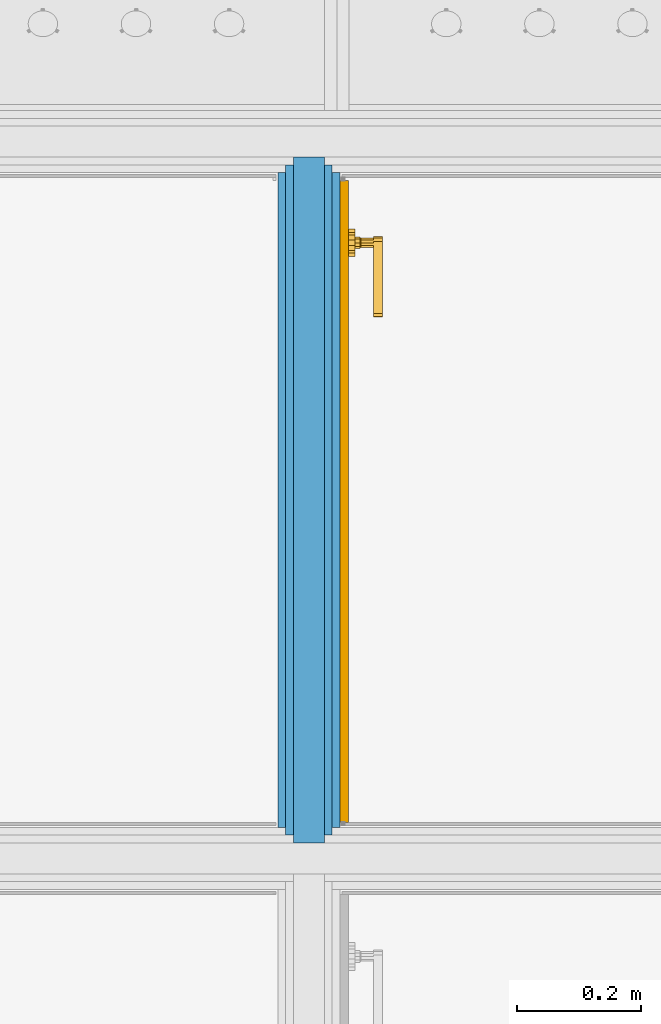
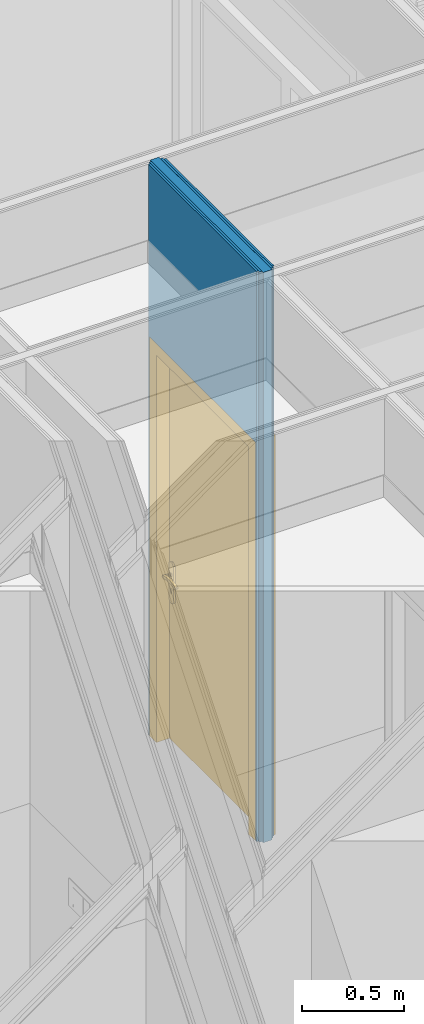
# One storey, part 16 of 788: 5 building element parts, 1 door, 1 opening, 1 element without a shape of its own.
"""IFC2X3 building model written with IfcOpenShell, lengths in millimetres."""

from ifc_helpers import new_model, entity, si_unit, converted_unit, derived_unit, money_unit, direction, frame, origin_with_axes, place, context, subcontext, project, spatial, faceted_brep, source, transform, mapped, material, type_object, type_shapes, element, fill, aggregate, save


model = new_model("IFC2X3")

# Units and contexts
model_context = context("Model", 3, precision=0.01, world=origin_with_axes(), true_north=direction((0.0, 1.0)))
plan_context = context("Plan", 3, precision=0.01, world=origin_with_axes(), true_north=direction((0.0, 1.0)))
body_context = subcontext(model_context, "Body", "Model", "MODEL_VIEW")
ifc_project = project(units=[si_unit("LENGTHUNIT", "METRE", prefix="MILLI"), si_unit("AREAUNIT", "SQUARE_METRE"), si_unit("VOLUMEUNIT", "CUBIC_METRE"), converted_unit("PLANEANGLEUNIT", "DEGREE", entity("IfcPlaneAngleMeasure", 0.0174532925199), si_unit("PLANEANGLEUNIT", "RADIAN"), dimensions=[0, 0, 0, 0, 0, 0, 0]), money_unit("EUR"), converted_unit("TIMEUNIT", "Year", entity("IfcTimeMeasure", 31556926.0), si_unit("TIMEUNIT", "SECOND"), dimensions=[0, 0, 1, 0, 0, 0, 0]), si_unit("MASSUNIT", "GRAM", prefix="KILO"), si_unit("THERMODYNAMICTEMPERATUREUNIT", "DEGREE_CELSIUS"), si_unit("LUMINOUSINTENSITYUNIT", "LUMEN"), si_unit("ENERGYUNIT", "JOULE", prefix="MEGA"), derived_unit("THERMALCONDUCTANCEUNIT", [(si_unit("POWERUNIT", "WATT"), 1), (si_unit("LENGTHUNIT", "METRE"), -1), (si_unit("THERMODYNAMICTEMPERATUREUNIT", "KELVIN"), -1)]), derived_unit("SPECIFICHEATCAPACITYUNIT", [(si_unit("ENERGYUNIT", "JOULE"), 1), (si_unit("MASSUNIT", "GRAM", prefix="KILO"), -1), (si_unit("THERMODYNAMICTEMPERATUREUNIT", "KELVIN"), -1)]), derived_unit("MASSDENSITYUNIT", [(si_unit("MASSUNIT", "GRAM", prefix="KILO"), 1), (si_unit("VOLUMEUNIT", "CUBIC_METRE"), -1)])], contexts=[model_context, plan_context])

# Site, building, storey
site_placement = place(None, origin_with_axes())
site = spatial("IfcSite", under=ifc_project, at=site_placement, Name="Site", CompositionType="ELEMENT")
building_placement = place(site_placement, origin_with_axes())
building = spatial("IfcBuilding", under=site, at=building_placement, Name="Naam gebouw", CompositionType="ELEMENT")
storey_placement = place(building_placement, origin_with_axes())
storey = spatial("IfcBuildingStorey", under=building, at=storey_placement, Name="Begane grond", CompositionType="ELEMENT", Elevation=0.0)

# Door
door_style = type_object("IfcDoorStyle", Name="D1 25", ConstructionType="NOTDEFINED", OperationType="SINGLE_SWING_RIGHT", ParameterTakesPrecedence=False, Sizeable=False)
shared_shape = source(origin_with_axes(), body_context, "Body", "Brep", [
    faceted_brep([(-450.0, -40.0, 0.0), (-450.0, -40.0, 2310.0), (-450.0, -114.0, 2310.0), (-450.0, -114.0, 0.0), (-467.0, -40.0, 2310.0), (-467.0, -40.0, 0.0), (-467.0, 0.0, 2310.0), (-517.0, 0.0, 2310.0), (-517.0, -114.0, 2310.0), (-517.0, -114.0, 0.0), (-517.0, 0.0, 0.0), (-467.0, 0.0, 0.0)], [[[0, 1, 2, 3]], [[4, 1, 0, 5]], [[4, 6, 7, 8, 2, 1]], [[3, 2, 8, 9]], [[5, 0, 3, 9, 10, 11]], [[6, 4, 5, 11]], [[6, 11, 10, 7]], [[10, 9, 8, 7]]]),
    faceted_brep([(467.0, -40.0, 2310.0), (450.0, -40.0, 2310.0), (450.0, -114.0, 2310.0), (517.0, -114.0, 2310.0), (517.0, 0.0, 2310.0), (467.0, 0.0, 2310.0), (467.0, -40.0, 0.0), (450.0, -40.0, 0.0), (450.0, -114.0, 0.0), (517.0, -114.0, 0.0), (517.0, 0.0, 0.0), (467.0, 0.0, 0.0)], [[[0, 1, 2, 3, 4, 5]], [[1, 0, 6, 7]], [[1, 7, 8, 2]], [[3, 2, 8, 9]], [[4, 3, 9, 10]], [[11, 5, 4, 10]], [[0, 5, 11, 6]], [[6, 11, 10, 9, 8, 7]]]),
    faceted_brep([(-467.0, 0.0, 2327.0), (-467.0, 0.0, 2310.0), (-517.0, 0.0, 2310.0), (-517.0, 0.0, 2377.0), (517.0, 0.0, 2377.0), (517.0, 0.0, 2310.0), (467.0, 0.0, 2310.0), (467.0, 0.0, 2327.0), (-467.0, -40.0, 2327.0), (-467.0, -40.0, 2310.0), (-450.0, -40.0, 2310.0), (-450.0, -114.0, 2310.0), (-517.0, -114.0, 2310.0), (-517.0, -114.0, 2377.0), (517.0, -114.0, 2377.0), (517.0, -114.0, 2310.0), (467.0, -40.0, 2310.0), (450.0, -114.0, 2310.0), (450.0, -40.0, 2310.0), (467.0, -40.0, 2327.0)], [[[0, 1, 2, 3, 4, 5, 6, 7]], [[1, 0, 8, 9]], [[9, 10, 11, 12, 2, 1]], [[2, 12, 13, 3]], [[3, 13, 14, 4]], [[4, 14, 15, 5]], [[16, 6, 5, 15, 17, 18]], [[7, 6, 16, 19]], [[0, 7, 19, 8]], [[16, 18, 10, 9, 8, 19]], [[10, 18, 17, 11]], [[17, 15, 14, 13, 12, 11]]]),
    faceted_brep([(-421.702282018, -80.0, 1006.47213595), (-417.0, -80.0, 1008.0), (-417.0, -60.0, 1008.0), (-421.702282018, -60.0, 1006.47213595), (-424.60845213, -80.0, 1002.47213595), (-424.60845213, -80.0, 997.527864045), (-421.702282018, -80.0, 993.527864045), (-417.0, -80.0, 992.0), (-412.297717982, -80.0, 993.527864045), (-409.39154787, -80.0, 997.527864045), (-409.39154787, -80.0, 1002.47213595), (-412.297717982, -80.0, 1006.47213595), (-412.297717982, -60.0, 1006.47213595), (-417.0, -58.0, 1010.0), (-422.877852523, -58.0, 1008.09016994), (-424.60845213, -60.0, 1002.47213595), (-424.60845213, -60.0, 997.527864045), (-421.702282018, -60.0, 993.527864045), (-417.0, -60.0, 992.0), (-412.297717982, -60.0, 993.527864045), (-409.39154787, -60.0, 997.527864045), (-409.39154787, -60.0, 1002.47213595), (-411.122147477, -58.0, 1008.09016994), (-417.0, -50.0, 1010.0), (-422.877852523, -50.0, 1008.09016994), (-426.510565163, -58.0, 1003.09016994), (-426.510565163, -58.0, 996.909830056), (-422.877852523, -58.0, 991.909830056), (-417.0, -58.0, 990.0), (-411.122147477, -58.0, 991.909830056), (-407.489434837, -58.0, 996.909830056), (-407.489434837, -58.0, 1003.09016994), (-411.122147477, -50.0, 1008.09016994), (-407.489434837, -50.0, 1003.09016994), (-407.489434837, -50.0, 996.909830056), (-411.122147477, -50.0, 991.909830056), (-417.0, -50.0, 990.0), (-422.877852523, -50.0, 991.909830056), (-426.510565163, -50.0, 996.909830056), (-426.510565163, -50.0, 1003.09016994)], [[[0, 1, 2, 3]], [[1, 0, 4, 5, 6, 7, 8, 9, 10, 11]], [[1, 11, 12, 2]], [[3, 2, 13, 14]], [[4, 0, 3, 15]], [[5, 4, 15, 16]], [[6, 5, 16, 17]], [[7, 6, 17, 18]], [[8, 7, 18, 19]], [[9, 8, 19, 20]], [[10, 9, 20, 21]], [[11, 10, 21, 12]], [[2, 12, 22, 13]], [[14, 13, 23, 24]], [[15, 3, 14, 25]], [[16, 15, 25, 26]], [[17, 16, 26, 27]], [[18, 17, 27, 28]], [[19, 18, 28, 29]], [[20, 19, 29, 30]], [[21, 20, 30, 31]], [[12, 21, 31, 22]], [[13, 22, 32, 23]], [[23, 32, 33, 34, 35, 36, 37, 38, 39, 24]], [[25, 14, 24, 39]], [[26, 25, 39, 38]], [[27, 26, 38, 37]], [[28, 27, 37, 36]], [[29, 28, 36, 35]], [[30, 29, 35, 34]], [[31, 30, 34, 33]], [[22, 31, 33, 32]]]),
    faceted_brep([(-404.811616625, -50.0, 1067.59695641), (-412.556444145, -50.0, 1071.95567195), (-421.443555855, -50.0, 1071.95567195), (-429.188383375, -50.0, 1067.59695641), (-433.8, -50.0, 1060.0), (-439.5, -50.0, 1060.0), (-439.5, -50.0, 840.0), (-433.8, -50.0, 840.0), (-429.188383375, -50.0, 832.403043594), (-421.443555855, -50.0, 828.044328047), (-412.556444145, -50.0, 828.044328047), (-404.811616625, -50.0, 832.403043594), (-400.2, -50.0, 840.0), (-394.5, -50.0, 840.0), (-394.5, -50.0, 1060.0), (-400.2, -50.0, 1060.0), (-417.0, -50.0, 917.425445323), (-411.624817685, -50.0, 915.143815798), (-409.532169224, -50.0, 909.692280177), (-412.0, -50.0, 904.4), (-412.0, -50.0, 887.5), (-413.464466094, -50.0, 883.964466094), (-417.0, -50.0, 882.5), (-420.535533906, -50.0, 883.964466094), (-422.0, -50.0, 887.5), (-422.0, -50.0, 904.4), (-424.467830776, -50.0, 909.692280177), (-422.375182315, -50.0, 915.143815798), (-404.811616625, -40.0, 1067.59695641), (-412.556444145, -40.0, 1071.95567195), (-421.443555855, -40.0, 1071.95567195), (-429.188383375, -40.0, 1067.59695641), (-433.8, -40.0, 1060.0), (-439.5, -40.0, 1060.0), (-439.5, -40.0, 840.0), (-433.8, -40.0, 840.0), (-429.188383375, -40.0, 832.403043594), (-421.443555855, -40.0, 828.044328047), (-412.556444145, -40.0, 828.044328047), (-404.811616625, -40.0, 832.403043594), (-400.2, -40.0, 840.0), (-394.5, -40.0, 840.0), (-394.5, -40.0, 1060.0), (-400.2, -40.0, 1060.0), (-417.0, -40.0, 917.425445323), (-411.624817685, -40.0, 915.143815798), (-409.532169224, -40.0, 909.692280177), (-412.0, -40.0, 904.4), (-412.0, -40.0, 887.5), (-413.464466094, -40.0, 883.964466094), (-417.0, -40.0, 882.5), (-420.535533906, -40.0, 883.964466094), (-422.0, -40.0, 887.5), (-422.0, -40.0, 904.4), (-424.467830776, -40.0, 909.692280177), (-422.375182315, -40.0, 915.143815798)], [[[0, 1, 2, 3, 4, 5, 6, 7, 8, 9, 10, 11, 12, 13, 14, 15], [16, 17, 18, 19, 20, 21, 22, 23, 24, 25, 26, 27]], [[1, 0, 28, 29]], [[2, 1, 29, 30]], [[3, 2, 30, 31]], [[4, 3, 31, 32]], [[5, 4, 32, 33]], [[6, 5, 33, 34]], [[7, 6, 34, 35]], [[8, 7, 35, 36]], [[9, 8, 36, 37]], [[10, 9, 37, 38]], [[11, 10, 38, 39]], [[12, 11, 39, 40]], [[13, 12, 40, 41]], [[14, 13, 41, 42]], [[15, 14, 42, 43]], [[0, 15, 43, 28]], [[17, 16, 44, 45]], [[18, 17, 45, 46]], [[19, 18, 46, 47]], [[19, 47, 48, 20]], [[20, 48, 49, 21]], [[21, 49, 50, 22]], [[22, 50, 51, 23]], [[23, 51, 52, 24]], [[53, 25, 24, 52]], [[26, 25, 53, 54]], [[27, 26, 54, 55]], [[16, 27, 55, 44]], [[40, 39, 38, 37, 36, 35, 34, 33, 32, 31, 30, 29, 28, 43, 42, 41], [54, 53, 52, 51, 50, 49, 48, 47, 46, 45, 44, 55]]]),
    faceted_brep([(-302.747, -80.0, 1007.158), (-302.747, -95.0, 1007.158), (-302.745508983, -95.0, 1007.19388416), (-302.745508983, -80.0, 1007.19388416), (-329.774630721, -80.0, 1014.32652034), (-329.774630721, -95.0, 1014.32652034), (-357.602743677, -95.0, 1017.06086405), (-385.508740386, -95.0, 1015.29002982), (-412.768, -95.0, 1009.06), (-419.170575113, -95.0, 1009.76125134), (-424.672633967, -95.0, 1006.41280843), (-426.991512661, -95.0, 1000.40385485), (-425.165167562, -95.0, 994.227352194), (-419.951302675, -95.0, 990.445773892), (-413.513017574, -95.0, 990.628000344), (-408.521392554, -95.0, 994.698430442), (-408.542, -95.0, 994.666), (-383.253286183, -95.0, 1000.19878945), (-357.410818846, -95.0, 1001.71460194), (-331.648684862, -95.0, 999.176244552), (-306.599, -95.0, 992.646), (-301.055815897, -95.0, 993.568490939), (-297.69427449, -95.0, 998.071591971), (-298.385844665, -95.0, 1003.64829442), (-298.385844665, -80.0, 1003.64829442), (-297.69427449, -80.0, 998.071591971), (-301.055815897, -80.0, 993.568490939), (-306.599, -80.0, 992.646), (-331.648684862, -80.0, 999.176244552), (-357.410818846, -80.0, 1001.71460194), (-383.253286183, -80.0, 1000.19878945), (-408.542, -80.0, 994.666), (-408.521392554, -80.0, 994.698430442), (-413.513017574, -80.0, 990.628000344), (-419.951302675, -80.0, 990.445773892), (-425.165167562, -80.0, 994.227352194), (-426.991512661, -80.0, 1000.40385485), (-424.672633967, -80.0, 1006.41280843), (-419.170575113, -80.0, 1009.76125134), (-412.768, -80.0, 1009.06), (-385.508740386, -80.0, 1015.29002982), (-357.602743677, -80.0, 1017.06086405)], [[[0, 1, 2, 3]], [[4, 5, 1, 0]], [[1, 5, 6, 7, 8, 9, 10, 11, 12, 13, 14, 15, 16, 17, 18, 19, 20, 21, 22, 23, 2]], [[3, 2, 23, 24]], [[0, 3, 24, 25, 26, 27, 28, 29, 30, 31, 32, 33, 34, 35, 36, 37, 38, 39, 40, 41, 4]], [[41, 6, 5, 4]], [[40, 7, 6, 41]], [[39, 8, 7, 40]], [[38, 9, 8, 39]], [[37, 10, 9, 38]], [[36, 11, 10, 37]], [[35, 12, 11, 36]], [[34, 13, 12, 35]], [[33, 14, 13, 34]], [[32, 15, 14, 33]], [[31, 16, 15, 32]], [[30, 17, 16, 31]], [[29, 18, 17, 30]], [[28, 19, 18, 29]], [[27, 20, 19, 28]], [[26, 21, 20, 27]], [[25, 22, 21, 26]], [[24, 23, 22, 25]]]),
    faceted_brep([(-421.702282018, 40.0, 1006.47213595), (-421.702282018, 20.0, 1006.47213595), (-417.0, 20.0, 1008.0), (-417.0, 40.0, 1008.0), (-424.60845213, 40.0, 1002.47213595), (-424.60845213, 20.0, 1002.47213595), (-422.877852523, 18.0, 1008.09016994), (-417.0, 18.0, 1010.0), (-412.297717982, 20.0, 1006.47213595), (-412.297717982, 40.0, 1006.47213595), (-409.39154787, 40.0, 1002.47213595), (-409.39154787, 40.0, 997.527864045), (-412.297717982, 40.0, 993.527864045), (-417.0, 40.0, 992.0), (-421.702282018, 40.0, 993.527864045), (-424.60845213, 40.0, 997.527864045), (-424.60845213, 20.0, 997.527864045), (-426.510565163, 18.0, 1003.09016994), (-422.877852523, 10.0, 1008.09016994), (-417.0, 10.0, 1010.0), (-411.122147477, 18.0, 1008.09016994), (-409.39154787, 20.0, 1002.47213595), (-409.39154787, 20.0, 997.527864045), (-412.297717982, 20.0, 993.527864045), (-417.0, 20.0, 992.0), (-421.702282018, 20.0, 993.527864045), (-426.510565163, 18.0, 996.909830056), (-426.510565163, 10.0, 1003.09016994), (-426.510565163, 10.0, 996.909830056), (-422.877852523, 10.0, 991.909830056), (-417.0, 10.0, 990.0), (-411.122147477, 10.0, 991.909830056), (-407.489434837, 10.0, 996.909830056), (-407.489434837, 10.0, 1003.09016994), (-411.122147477, 10.0, 1008.09016994), (-407.489434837, 18.0, 1003.09016994), (-407.489434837, 18.0, 996.909830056), (-411.122147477, 18.0, 991.909830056), (-417.0, 18.0, 990.0), (-422.877852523, 18.0, 991.909830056)], [[[0, 1, 2, 3]], [[4, 5, 1, 0]], [[1, 6, 7, 2]], [[3, 2, 8, 9]], [[3, 9, 10, 11, 12, 13, 14, 15, 4, 0]], [[15, 16, 5, 4]], [[5, 17, 6, 1]], [[6, 18, 19, 7]], [[2, 7, 20, 8]], [[9, 8, 21, 10]], [[10, 21, 22, 11]], [[11, 22, 23, 12]], [[12, 23, 24, 13]], [[13, 24, 25, 14]], [[14, 25, 16, 15]], [[16, 26, 17, 5]], [[17, 27, 18, 6]], [[19, 18, 27, 28, 29, 30, 31, 32, 33, 34]], [[7, 19, 34, 20]], [[8, 20, 35, 21]], [[21, 35, 36, 22]], [[22, 36, 37, 23]], [[23, 37, 38, 24]], [[24, 38, 39, 25]], [[25, 39, 26, 16]], [[26, 28, 27, 17]], [[39, 29, 28, 26]], [[38, 30, 29, 39]], [[37, 31, 30, 38]], [[36, 32, 31, 37]], [[35, 33, 32, 36]], [[20, 34, 33, 35]]]),
    faceted_brep([(-404.811616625, 0.0, 1067.59695641), (-412.556444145, 0.0, 1071.95567195), (-421.443555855, 0.0, 1071.95567195), (-429.188383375, 0.0, 1067.59695641), (-433.8, 0.0, 1060.0), (-439.5, 0.0, 1060.0), (-439.5, 0.0, 840.0), (-433.8, 0.0, 840.0), (-429.188383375, 0.0, 832.403043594), (-421.443555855, 0.0, 828.044328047), (-412.556444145, 0.0, 828.044328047), (-404.811616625, 0.0, 832.403043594), (-400.2, 0.0, 840.0), (-394.5, 0.0, 840.0), (-394.5, 0.0, 1060.0), (-400.2, 0.0, 1060.0), (-417.0, 0.0, 917.425445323), (-411.624817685, 0.0, 915.143815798), (-409.532169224, 0.0, 909.692280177), (-412.0, 0.0, 904.4), (-412.0, 0.0, 887.5), (-413.464466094, 0.0, 883.964466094), (-417.0, 0.0, 882.5), (-420.535533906, 0.0, 883.964466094), (-422.0, 0.0, 887.5), (-422.0, 0.0, 904.4), (-424.467830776, 0.0, 909.692280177), (-422.375182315, 0.0, 915.143815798), (-412.556444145, 10.0, 1071.95567195), (-404.811616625, 10.0, 1067.59695641), (-421.443555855, 10.0, 1071.95567195), (-429.188383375, 10.0, 1067.59695641), (-433.8, 10.0, 1060.0), (-439.5, 10.0, 1060.0), (-439.5, 10.0, 840.0), (-433.8, 10.0, 840.0), (-429.188383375, 10.0, 832.403043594), (-421.443555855, 10.0, 828.044328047), (-412.556444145, 10.0, 828.044328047), (-404.811616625, 10.0, 832.403043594), (-400.2, 10.0, 840.0), (-394.5, 10.0, 840.0), (-394.5, 10.0, 1060.0), (-400.2, 10.0, 1060.0), (-417.0, 10.0, 917.425445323), (-411.624817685, 10.0, 915.143815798), (-409.532169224, 10.0, 909.692280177), (-412.0, 10.0, 904.4), (-412.0, 10.0, 887.5), (-413.464466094, 10.0, 883.964466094), (-417.0, 10.0, 882.5), (-420.535533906, 10.0, 883.964466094), (-422.0, 10.0, 887.5), (-422.0, 10.0, 904.4), (-424.467830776, 10.0, 909.692280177), (-422.375182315, 10.0, 915.143815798)], [[[0, 1, 2, 3, 4, 5, 6, 7, 8, 9, 10, 11, 12, 13, 14, 15], [16, 17, 18, 19, 20, 21, 22, 23, 24, 25, 26, 27]], [[28, 1, 0, 29]], [[30, 2, 1, 28]], [[31, 3, 2, 30]], [[32, 4, 3, 31]], [[33, 5, 4, 32]], [[34, 6, 5, 33]], [[35, 7, 6, 34]], [[36, 8, 7, 35]], [[37, 9, 8, 36]], [[38, 10, 9, 37]], [[39, 11, 10, 38]], [[40, 12, 11, 39]], [[41, 13, 12, 40]], [[42, 14, 13, 41]], [[43, 15, 14, 42]], [[29, 0, 15, 43]], [[17, 16, 44, 45]], [[18, 17, 45, 46]], [[19, 18, 46, 47]], [[19, 47, 48, 20]], [[20, 48, 49, 21]], [[21, 49, 50, 22]], [[22, 50, 51, 23]], [[23, 51, 52, 24]], [[53, 25, 24, 52]], [[26, 25, 53, 54]], [[27, 26, 54, 55]], [[16, 27, 55, 44]], [[40, 39, 38, 37, 36, 35, 34, 33, 32, 31, 30, 28, 29, 43, 42, 41], [54, 53, 52, 51, 50, 49, 48, 47, 46, 45, 44, 55]]]),
    faceted_brep([(-302.747, 40.0, 1007.158), (-302.745508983, 40.0, 1007.19388416), (-302.745508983, 55.0, 1007.19388416), (-302.747, 55.0, 1007.158), (-329.774630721, 40.0, 1014.32652034), (-357.602743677, 40.0, 1017.06086405), (-385.508740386, 40.0, 1015.29002982), (-412.768, 40.0, 1009.06), (-419.170575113, 40.0, 1009.76125134), (-424.672633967, 40.0, 1006.41280843), (-426.991512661, 40.0, 1000.40385485), (-425.165167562, 40.0, 994.227352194), (-419.951302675, 40.0, 990.445773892), (-413.513017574, 40.0, 990.628000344), (-408.521392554, 40.0, 994.698430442), (-408.542, 40.0, 994.666), (-383.253286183, 40.0, 1000.19878945), (-357.410818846, 40.0, 1001.71460194), (-331.648684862, 40.0, 999.176244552), (-306.599, 40.0, 992.646), (-301.055815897, 40.0, 993.568490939), (-297.69427449, 40.0, 998.071591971), (-298.385844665, 40.0, 1003.64829442), (-298.385844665, 55.0, 1003.64829442), (-297.69427449, 55.0, 998.071591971), (-301.055815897, 55.0, 993.568490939), (-306.599, 55.0, 992.646), (-331.648684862, 55.0, 999.176244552), (-357.410818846, 55.0, 1001.71460194), (-383.253286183, 55.0, 1000.19878945), (-408.542, 55.0, 994.666), (-408.521392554, 55.0, 994.698430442), (-413.513017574, 55.0, 990.628000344), (-419.951302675, 55.0, 990.445773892), (-425.165167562, 55.0, 994.227352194), (-426.991512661, 55.0, 1000.40385485), (-424.672633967, 55.0, 1006.41280843), (-419.170575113, 55.0, 1009.76125134), (-412.768, 55.0, 1009.06), (-385.508740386, 55.0, 1015.29002982), (-357.602743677, 55.0, 1017.06086405), (-329.774630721, 55.0, 1014.32652034)], [[[0, 1, 2, 3]], [[0, 4, 5, 6, 7, 8, 9, 10, 11, 12, 13, 14, 15, 16, 17, 18, 19, 20, 21, 22, 1]], [[1, 22, 23, 2]], [[3, 2, 23, 24, 25, 26, 27, 28, 29, 30, 31, 32, 33, 34, 35, 36, 37, 38, 39, 40, 41]], [[4, 0, 3, 41]], [[5, 4, 41, 40]], [[6, 5, 40, 39]], [[7, 6, 39, 38]], [[8, 7, 38, 37]], [[9, 8, 37, 36]], [[10, 9, 36, 35]], [[11, 10, 35, 34]], [[12, 11, 34, 33]], [[13, 12, 33, 32]], [[14, 13, 32, 31]], [[15, 14, 31, 30]], [[16, 15, 30, 29]], [[17, 16, 29, 28]], [[18, 17, 28, 27]], [[19, 18, 27, 26]], [[20, 19, 26, 25]], [[21, 20, 25, 24]], [[22, 21, 24, 23]]]),
    faceted_brep([(467.0, 0.0, 0.0), (467.0, -40.0, 0.0), (-467.0, -40.0, 0.0), (-467.0, 0.0, 0.0), (467.0, 0.0, 2327.0), (467.0, -40.0, 2327.0), (-467.0, -40.0, 2327.0), (-467.0, 0.0, 2327.0)], [[[0, 1, 2, 3]], [[4, 5, 1, 0]], [[1, 5, 6, 2]], [[3, 2, 6, 7]], [[0, 3, 7, 4]], [[7, 6, 5, 4]]]),
])
type_shapes(door_style, [shared_shape])
wall_placement = place(storey_placement, frame((25965.9940854, 24004.989991, 0.0), z_axis=(0.0, 0.0, 1.0), x_axis=(0.0, 1.0, 0.0)))
opening_placement = place(wall_placement, frame((625.0, 0.0, 0.0), z_axis=(0.0, 0.0, 1.0), x_axis=(1.0, 0.0, 0.0)))
door_placement = place(opening_placement, frame((517.0, 0.0, 0.0), z_axis=(0.0, 0.0, 1.0), x_axis=(-1.0, 0.0, 0.0)))
door = element("IfcDoor", 1, at=door_placement, inside=storey, type_object=door_style, Name="b1.01", ObjectType="DOOR", OverallHeight=2377.0, OverallWidth=1034.0, context=body_context, shape_type="MappedRepresentation", body=[
    mapped(shared_shape, transform((517.0, 114.0, 0.0))),
])

# Wall, opening
wall_type = type_object("IfcWallType", Name="22 Metalstud 100mm 100", PredefinedType="ELEMENTEDWALL")
wall = element("IfcWall", 2, at=wall_placement, inside=storey, type_object=wall_type, Name="Binnenwand")
opening = element("IfcOpeningElement", 3, at=opening_placement, cuts=wall, Name="b1.01", context=body_context, shape_type="Brep", body=[
    faceted_brep([(-517.0, -100.0, 0.0), (-517.0, -100.0, 2377.0), (-517.0, 200.0, 2377.0), (-517.0, 200.0, 0.0), (517.0, -100.0, 0.0), (517.0, -100.0, 2377.0), (517.0, 200.0, 2377.0), (517.0, 200.0, 0.0)], [[[0, 1, 2, 3]], [[0, 4, 5, 1]], [[1, 5, 6, 2]], [[3, 2, 6, 7]], [[4, 0, 3, 7]], [[5, 4, 7, 6]]]),
])

fill(opening, door)

# Building element part
ifc_material_1 = material(Name="Gipsplaat")
building_element_part_1_placement = place(wall_placement, origin_with_axes())
building_element_part_1 = element("IfcBuildingElementPart", 4, at=building_element_part_1_placement, material=ifc_material_1, Name="Gipsplaat", context=body_context, shape_type="Brep", body=[
    faceted_brep([(108.0, -12.5, 0.0), (108.0, -12.5, 2377.0), (1142.0, -12.5, 2377.0), (1142.0, -12.5, 0.0), (1155.00133116, -12.5, 0.0), (1155.00133116, -12.5, 3400.0), (100.0, -12.5, 3400.0), (100.0, -12.5, 0.0), (108.0, 0.0, 0.0), (108.0, 0.0, 2377.0), (1142.0, 0.0, 2377.0), (1142.0, 0.0, 0.0), (1155.00133116, 0.0, 0.0), (1155.00133116, 0.0, 3400.0), (100.0, 0.0, 3400.0), (100.0, 0.0, 0.0)], [[[0, 1, 2, 3, 4, 5, 6, 7]], [[1, 0, 8, 9]], [[2, 1, 9, 10]], [[3, 2, 10, 11]], [[3, 11, 12, 4]], [[4, 12, 13, 5]], [[6, 5, 13, 14]], [[6, 14, 15, 7]], [[8, 0, 7, 15]], [[9, 8, 15, 14, 13, 12, 11, 10]]]),
])

building_element_part_2_placement = place(wall_placement, origin_with_axes())
building_element_part_2 = element("IfcBuildingElementPart", 5, at=building_element_part_2_placement, material=ifc_material_1, Name="Gipsplaat", context=body_context, shape_type="Brep", body=[
    faceted_brep([(108.0, -25.0, 0.0), (108.0, -25.0, 2377.0), (1142.0, -25.0, 2377.0), (1142.0, -25.0, 0.0), (1167.50133116, -25.0, 0.0), (1167.50133116, -25.0, 3400.0), (87.5, -25.0, 3400.0), (87.5, -25.0, 0.0), (108.0, -12.5, 0.0), (108.0, -12.5, 2377.0), (1142.0, -12.5, 2377.0), (1142.0, -12.5, 0.0), (1167.50133116, -12.5, 0.0), (1167.50133116, -12.5, 3400.0), (87.5, -12.5, 3400.0), (87.5, -12.5, 0.0)], [[[0, 1, 2, 3, 4, 5, 6, 7]], [[1, 0, 8, 9]], [[2, 1, 9, 10]], [[3, 2, 10, 11]], [[3, 11, 12, 4]], [[4, 12, 13, 5]], [[6, 5, 13, 14]], [[6, 14, 15, 7]], [[8, 0, 7, 15]], [[9, 8, 15, 14, 13, 12, 11, 10]]]),
])

ifc_material_2 = material(Name="Isolatie - Steenwol LSW")
building_element_part_3_placement = place(wall_placement, origin_with_axes())
building_element_part_3 = element("IfcBuildingElementPart", 6, at=building_element_part_3_placement, material=ifc_material_2, Name="Isolatie - Steenwol LSW", context=body_context, shape_type="Brep", body=[
    faceted_brep([(108.0, -75.0, 0.0), (108.0, -75.0, 2377.0), (1142.0, -75.0, 2377.0), (1142.0, -75.0, 0.0), (1180.00133116, -75.0, 0.0), (1180.00133116, -75.0, 3400.0), (75.0, -75.0, 3400.0), (75.0, -75.0, 0.0), (108.0, -25.0, 0.0), (108.0, -25.0, 2377.0), (1142.0, -25.0, 2377.0), (1142.0, -25.0, 0.0), (1180.00133116, -25.0, 0.0), (1180.00133116, -25.0, 3400.0), (75.0, -25.0, 3400.0), (75.0, -25.0, 0.0)], [[[0, 1, 2, 3, 4, 5, 6, 7]], [[1, 0, 8, 9]], [[2, 1, 9, 10]], [[3, 2, 10, 11]], [[3, 11, 12, 4]], [[4, 12, 13, 5]], [[6, 5, 13, 14]], [[6, 14, 15, 7]], [[8, 0, 7, 15]], [[9, 8, 15, 14, 13, 12, 11, 10]]]),
])

building_element_part_4_placement = place(wall_placement, origin_with_axes())
building_element_part_4 = element("IfcBuildingElementPart", 7, at=building_element_part_4_placement, material=ifc_material_1, Name="Gipsplaat", context=body_context, shape_type="Brep", body=[
    faceted_brep([(108.0, -87.5, 0.0), (108.0, -87.5, 2377.0), (1142.0, -87.5, 2377.0), (1142.0, -87.5, 0.0), (1167.50133116, -87.5, 0.0), (1167.50133116, -87.5, 3400.0), (87.5, -87.5, 3400.0), (87.5, -87.5, 0.0), (108.0, -75.0, 0.0), (108.0, -75.0, 2377.0), (1142.0, -75.0, 2377.0), (1142.0, -75.0, 0.0), (1167.50133116, -75.0, 0.0), (1167.50133116, -75.0, 3400.0), (87.5, -75.0, 3400.0), (87.5, -75.0, 0.0)], [[[0, 1, 2, 3, 4, 5, 6, 7]], [[1, 0, 8, 9]], [[2, 1, 9, 10]], [[3, 2, 10, 11]], [[3, 11, 12, 4]], [[4, 12, 13, 5]], [[6, 5, 13, 14]], [[6, 14, 15, 7]], [[8, 0, 7, 15]], [[9, 8, 15, 14, 13, 12, 11, 10]]]),
])

building_element_part_5_placement = place(wall_placement, origin_with_axes())
building_element_part_5 = element("IfcBuildingElementPart", 8, at=building_element_part_5_placement, material=ifc_material_1, Name="Gipsplaat", context=body_context, shape_type="Brep", body=[
    faceted_brep([(108.0, -100.0, 0.0), (108.0, -100.0, 2377.0), (1142.0, -100.0, 2377.0), (1142.0, -100.0, 0.0), (1155.00133116, -100.0, 0.0), (1155.00133116, -100.0, 3400.0), (100.0, -100.0, 3400.0), (100.0, -100.0, 0.0), (108.0, -87.5, 0.0), (108.0, -87.5, 2377.0), (1142.0, -87.5, 2377.0), (1142.0, -87.5, 0.0), (1155.00133116, -87.5, 0.0), (1155.00133116, -87.5, 3400.0), (100.0, -87.5, 3400.0), (100.0, -87.5, 0.0)], [[[0, 1, 2, 3, 4, 5, 6, 7]], [[1, 0, 8, 9]], [[2, 1, 9, 10]], [[3, 2, 10, 11]], [[3, 11, 12, 4]], [[4, 12, 13, 5]], [[6, 5, 13, 14]], [[6, 14, 15, 7]], [[8, 0, 7, 15]], [[9, 8, 15, 14, 13, 12, 11, 10]]]),
])

aggregate(wall, [building_element_part_1, building_element_part_2, building_element_part_3, building_element_part_4, building_element_part_5])

save(model, "model.ifc")
